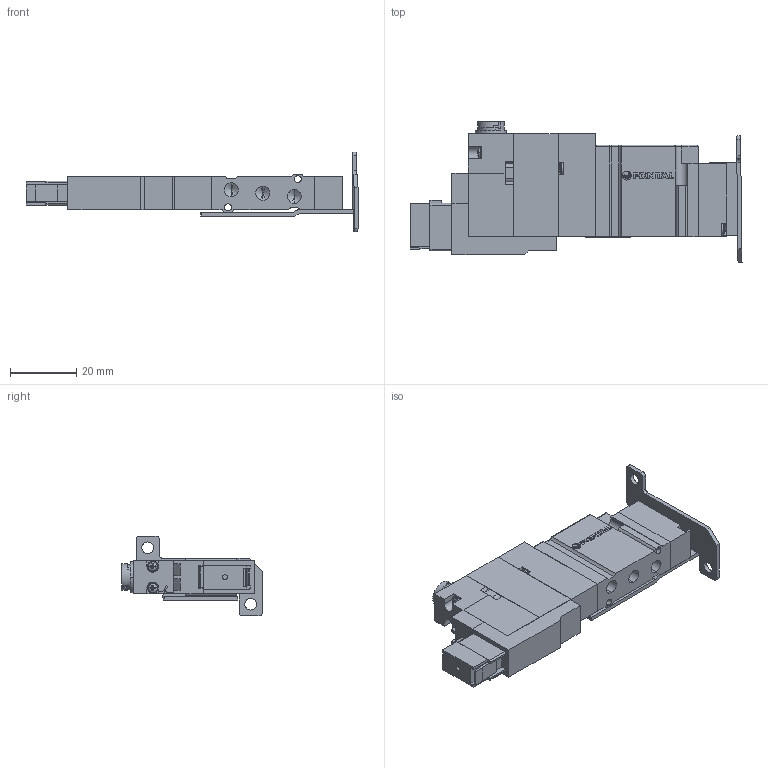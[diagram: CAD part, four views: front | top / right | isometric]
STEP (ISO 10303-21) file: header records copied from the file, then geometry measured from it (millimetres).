
FILE_DESCRIPTION (( 'STEP AP203' ), '1' );
FILE_NAME ('A05FS25#-BF-#-#-E.STEP', '2016-02-04T01:56:59', ( 'Sam Lin' ), ( '' ), 'SwSTEP 2.0', 'SolidWorks 2013', '' );
FILE_SCHEMA (( 'CONFIG_CONTROL_DESIGN' ));
Length unit declared in the file: metre
Products named in the file (16): A05RS25-1; DC24-A05F-2; ISO 7045 - M1.6 x 10; A05FS25-6; mark-ADEX-A05RS; A05FS25-2; A05RS25-3; A05FS25-3; A05RS25-4; A05RS25-11-3; A05RS25-5; A05FS25-5; A05RS25-6; A05FS25#-BF-#-#-E; DC24-A05F-1; DC24-A05G-3
Assembly tree (21 placements, depth 2):
  A05FS25#-BF-#-#-E
    A05RS25-1
    ISO 7045 - M1.6 x 10  x6
    mark-ADEX-A05RS
    A05RS25-3
    A05RS25-4
    A05RS25-5
    A05RS25-6  x2
    DC24-A05F-1
    DC24-A05G-3
    DC24-A05F-2
    A05FS25-6
    A05FS25-2
    A05FS25-3
    A05RS25-11-3
    A05FS25-5
Bounding box: 99.94 x 42.34 x 24 mm (x, y, z)
Volume: 25912 mm3; surface area: 18030.2 mm2
Topology: 29 solids, 29 shells, 731 faces, 1864 edges, 1183 vertices
Faces by surface type: plane 460, cylinder 151, cone 68, bspline 52
Entity records: 17877 total; most frequent: CARTESIAN_POINT 3517, ORIENTED_EDGE 2608, DIRECTION 2542, EDGE_CURVE 1304, VECTOR 950, LINE 950, VERTEX_POINT 855, AXIS2_PLACEMENT_3D 796
